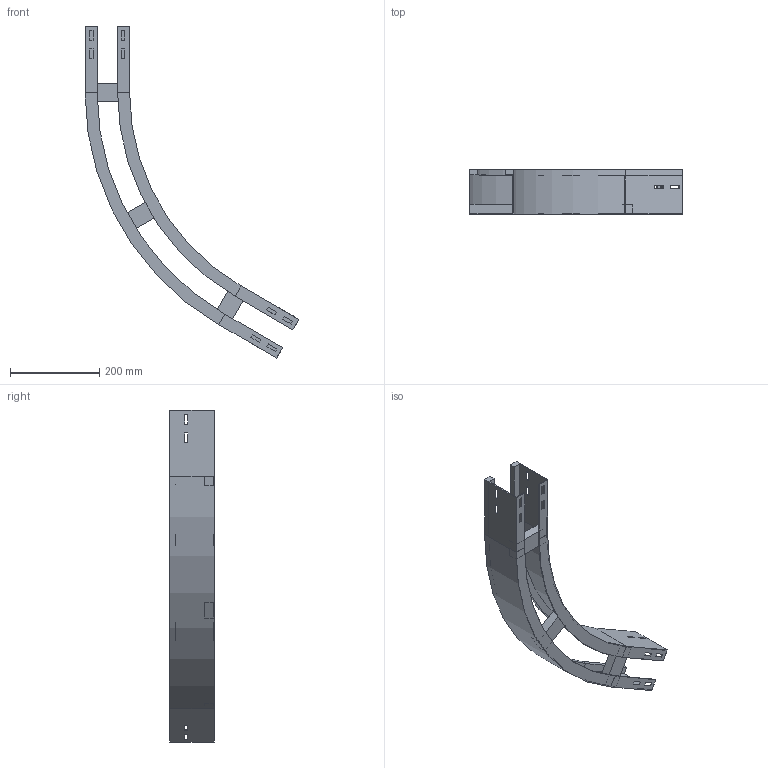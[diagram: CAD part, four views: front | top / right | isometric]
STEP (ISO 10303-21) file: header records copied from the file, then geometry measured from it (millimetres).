
FILE_DESCRIPTION (( 'STEP AP214' ), '1' );
FILE_NAME ('13B5D100.step', '2025-02-21T15:16:59', ( '' ), ( '' ), 'SwSTEP 2.0', 'SolidWorks 2023', '' );
FILE_SCHEMA (( 'AUTOMOTIVE_DESIGN' ));
Length unit declared in the file: millimetre
Products named in the file (4): 13B5D100; A2_LONGH.INTERNO 60°_H100_R500; A2_LONGH.ESTERNO 60°_H100_R500+100; TRAVERSINO_100
Assembly tree (5 placements, depth 2):
  13B5D100
    A2_LONGH.INTERNO 60°_H100_R500
    A2_LONGH.ESTERNO 60°_H100_R500+100
    TRAVERSINO_100  x3
Bounding box: 479.9 x 100 x 744.62 mm (x, y, z)
Volume: 1002699.4 mm3; surface area: 539452.3 mm2
Topology: 5 solids, 5 shells, 134 faces, 340 edges, 216 vertices
Faces by surface type: plane 126, cylinder 8
Entity records: 3821 total; most frequent: CARTESIAN_POINT 646, ORIENTED_EDGE 632, DIRECTION 592, EDGE_CURVE 316, VECTOR 300, LINE 300, VERTEX_POINT 200, EDGE_LOOP 154
